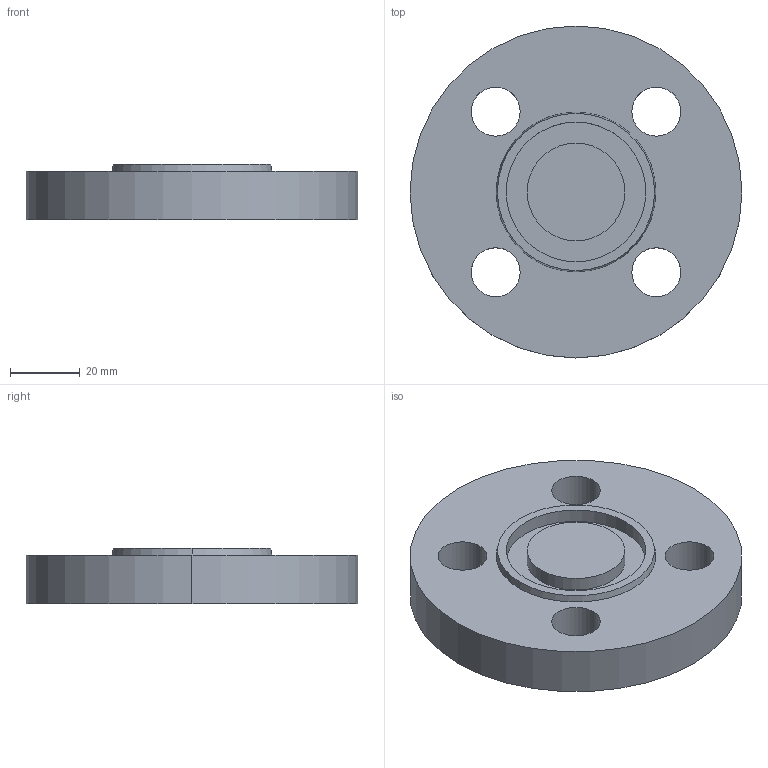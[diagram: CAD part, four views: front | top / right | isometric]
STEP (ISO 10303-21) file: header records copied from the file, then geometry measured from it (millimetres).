
FILE_DESCRIPTION (( 'STEP AP214' ), '1' );
FILE_NAME ('PN40 DN15 Type 05 - Type D Face.STEP', '2018-12-29T15:07:05', ( '' ), ( '' ), 'SwSTEP 2.0', 'SolidWorks 2019', '' );
FILE_SCHEMA (( 'AUTOMOTIVE_DESIGN' ));
Length unit declared in the file: millimetre
Products named in the file (1): PN40 DN15 Type 05 - Type D Face
Bounding box: 95 x 95 x 16 mm (x, y, z)
Volume: 91282 mm3; surface area: 20679.9 mm2
Topology: 1 solids, 1 shells, 21 faces, 48 edges, 32 vertices
Faces by surface type: cylinder 14, plane 5, cone 2
Entity records: 664 total; most frequent: DIRECTION 124, CARTESIAN_POINT 102, ORIENTED_EDGE 96, AXIS2_PLACEMENT_3D 54, EDGE_CURVE 48, CIRCLE 32, VERTEX_POINT 32, EDGE_LOOP 32
